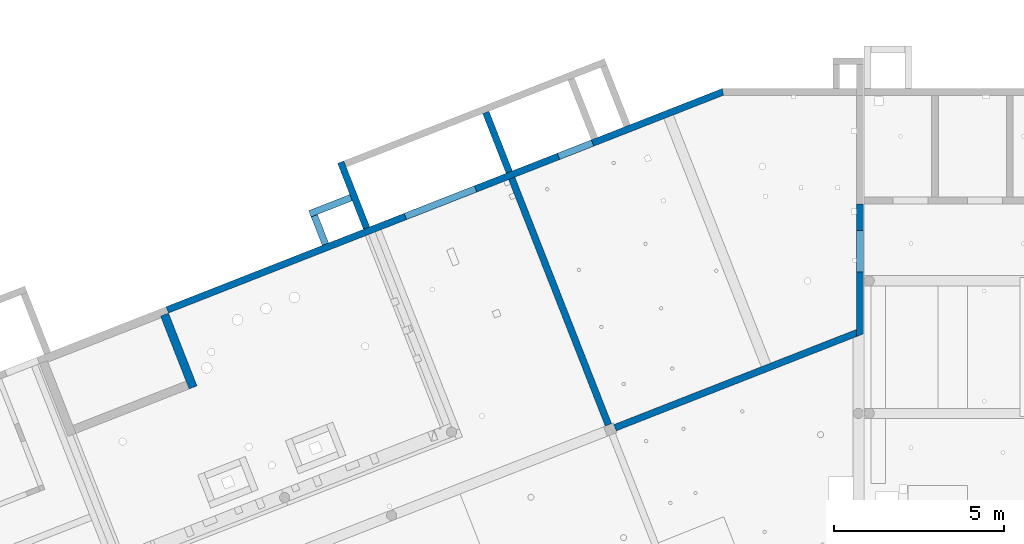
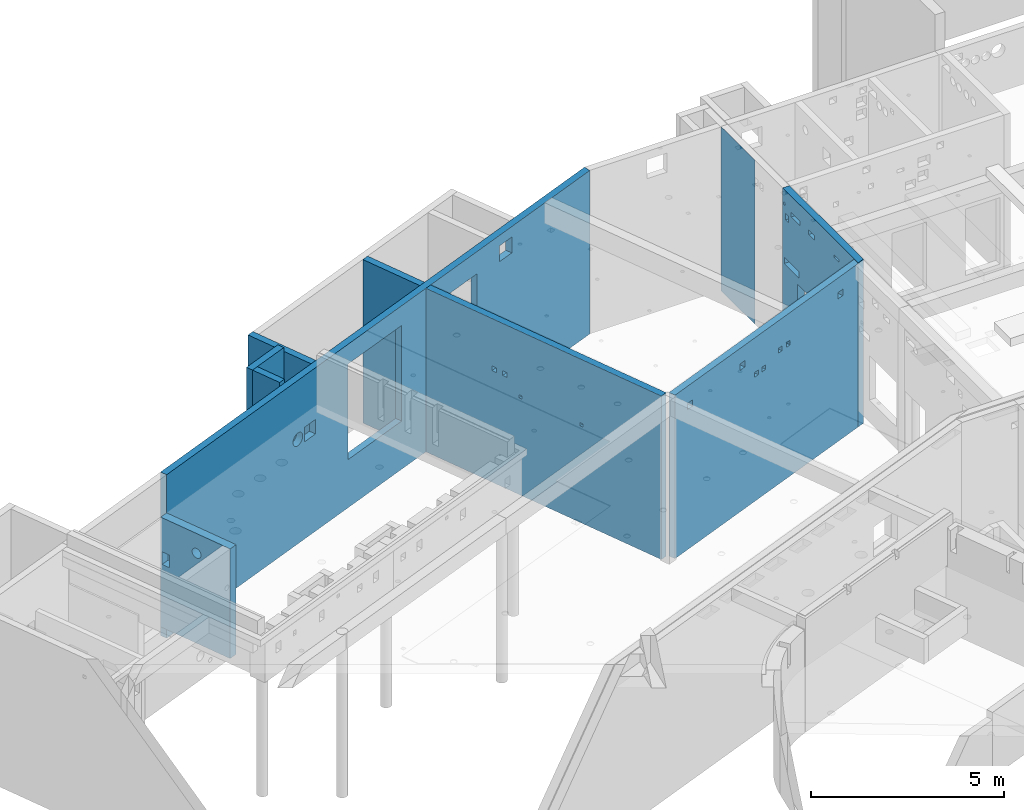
# One storey, part 23 of 28: 9 walls, 28 openings.
"""IFC2X3 building model written with IfcOpenShell, lengths in metres."""

from ifc_helpers import new_model, entity, si_unit, converted_unit, direction, frame, frame_2d, origin, origin_with_axes, place, context, subcontext, project, spatial, polyline, rectangle, outline, extrude, material, layer, layer_set, layer_usage, element, save


model = new_model("IFC2X3")

# Units and contexts
model_context = context("Model", 3, precision=1e-05, world=origin(), true_north=direction((-0.407059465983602, -0.913401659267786)))
body_context = subcontext(model_context, "Body", "Model", "MODEL_VIEW")
ifc_project = project(units=[si_unit("LENGTHUNIT", "METRE"), si_unit("AREAUNIT", "SQUARE_METRE"), si_unit("VOLUMEUNIT", "CUBIC_METRE"), si_unit("MASSUNIT", "GRAM", prefix="KILO"), converted_unit("PLANEANGLEUNIT", "DEGREE", entity("IfcPlaneAngleMeasure", 0.0174532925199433), si_unit("PLANEANGLEUNIT", "RADIAN"), dimensions=[0, 0, 0, 0, 0, 0, 0])], contexts=[model_context])

# Site, buildings, storey
site_placement = place(None, origin())
site = spatial("IfcSite", under=ifc_project, at=site_placement, Name="Site", CompositionType="ELEMENT")
building_1_placement = place(site_placement, origin())
building_1 = spatial("IfcBuilding", under=site, at=building_1_placement, Name="Site", CompositionType="COMPLEX")
building_2_placement = place(building_1_placement, origin())
building_2 = spatial("IfcBuilding", under=building_1, at=building_2_placement, Name="Bâtiments", CompositionType="ELEMENT")
storey_placement = place(building_2_placement, frame((0.0, 0.0, -5.3)))
storey = spatial("IfcBuildingStorey", under=building_2, at=storey_placement, Name="SOUS-SOL", CompositionType="ELEMENT", Elevation=-5.3)

# Wall, openings
ifc_material_1 = material(Name="Béton")
ifc_layer_1 = layer(ifc_material_1, 0.25)
ifc_layer_set_1 = layer_set([ifc_layer_1])
ifc_layer_usage_1 = layer_usage(ifc_layer_set_1, "AXIS2", "POSITIVE", 0.0)
wall_1_placement = place(storey_placement, frame((8.25628507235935, 0.660868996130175, 0.5), z_axis=(0.0, 0.0, 1.0), x_axis=(-0.365246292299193, 0.930910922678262, 0.0)))
wall_1 = element("IfcWallStandardCase", 1, at=wall_1_placement, inside=storey, material=ifc_layer_usage_1, context=body_context, shape_type="SweptSolid", body=[
    extrude(rectangle(XDim=2.30036734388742, YDim=0.25, at=frame_2d((1.15018367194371, 0.125), x_axis=(1.0, 0.0))), origin_with_axes(), (0.0, 0.0, 1.0), 3.46),
])
opening_1_placement = place(wall_1_placement, frame((0.959622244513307, 1.13686837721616e-16, 2.69), z_axis=(9.09494701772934e-16, 1.0, 0.0), x_axis=(0.0, 0.0, 1.0)))
element("IfcOpeningElement", 2, at=opening_1_placement, cuts=wall_1, Name="CVC-012", ObjectType="Opening", context=body_context, shape_type="SweptSolid", body=[
    extrude(outline(polyline([(0.14999998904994, 0.3), (0.165679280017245, 0.299178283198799), (0.181186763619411, 0.296722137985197), (0.196352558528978, 0.292658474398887), (0.211010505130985, 0.287031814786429), (0.225000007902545, 0.279903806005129), (0.238167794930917, 0.271352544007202), (0.25036959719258, 0.261471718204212), (0.261471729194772, 0.250369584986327), (0.271352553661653, 0.238167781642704), (0.279903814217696, 0.224999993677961), (0.287031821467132, 0.211010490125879), (0.292658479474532, 0.196352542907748), (0.296722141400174, 0.181186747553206), (0.299178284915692, 0.165679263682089), (0.3, 0.149999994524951), (0.299178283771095, 0.134320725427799), (0.29672213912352, 0.118813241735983), (0.292658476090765, 0.10364744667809), (0.287031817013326, 0.0889894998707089), (0.279903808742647, 0.0749999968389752), (0.271352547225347, 0.0618322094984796), (0.261471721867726, 0.049630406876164), (0.250369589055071, 0.038528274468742), (0.238167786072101, 0.0286474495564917), (0.224999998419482, 0.0200961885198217), (0.211010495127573, 0.0129681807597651), (0.196352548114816, 0.00734152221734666), (0.181186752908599, 0.00327785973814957), (0.165679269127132, 0.000821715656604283), (0.149999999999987, 0.0), (0.134320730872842, 0.000821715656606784), (0.118813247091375, 0.0032778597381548), (0.103647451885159, 0.00734152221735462), (0.0889895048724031, 0.0129681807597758), (0.0750000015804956, 0.0200961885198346), (0.0618322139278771, 0.0286474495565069), (0.0496304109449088, 0.0385282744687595), (0.0385282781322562, 0.0496304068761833), (0.0286474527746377, 0.0618322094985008), (0.0200961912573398, 0.0749999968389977), (0.0129681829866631, 0.0889894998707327), (0.00734152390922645, 0.103647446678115), (0.00327786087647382, 0.118813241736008), (0.000821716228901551, 0.134320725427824), (0.0, 0.149999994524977), (0.000821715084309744, 0.165679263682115), (0.00327785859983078, 0.181186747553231), (0.00734152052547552, 0.196352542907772), (0.0129681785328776, 0.211010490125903), (0.0200961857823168, 0.224999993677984), (0.0286474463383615, 0.238167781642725), (0.0385282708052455, 0.250369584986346), (0.0496304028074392, 0.26147171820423), (0.061832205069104, 0.271352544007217), (0.0749999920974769, 0.279903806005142), (0.088989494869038, 0.287031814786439), (0.103647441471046, 0.292658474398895), (0.118813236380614, 0.296722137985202), (0.134320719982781, 0.299178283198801), (0.14999998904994, 0.3)])), origin_with_axes(), (0.0, 0.0, 1.0), 0.249999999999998),
])
opening_2_placement = place(wall_1_placement, frame((2.00131382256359, -9.09494701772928e-16, 1.99), z_axis=(0.0, 1.0, 0.0), x_axis=(0.0, 0.0, 1.0)))
element("IfcOpeningElement", 3, at=opening_2_placement, cuts=wall_1, Name="TE-030", ObjectType="Opening", context=body_context, shape_type="SweptSolid", body=[
    extrude(outline(polyline([(0.0, 0.249053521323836), (0.4, 0.249053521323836), (0.4, 0.0), (0.0, 0.0), (0.0, 0.249053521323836)])), origin_with_axes(), (0.0, 0.0, 1.0), 0.249999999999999),
])

ifc_material_2 = material(Name="Béton")
ifc_layer_2 = layer(ifc_material_2, 0.199999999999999)
ifc_layer_set_2 = layer_set([ifc_layer_2])
ifc_layer_usage_2 = layer_usage(ifc_layer_set_2, "AXIS2", "POSITIVE", 0.0)
wall_2_placement = place(storey_placement, frame((23.710664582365, 9.41038730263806, 0.0), z_axis=(0.0, 0.0, 1.0), x_axis=(-0.930910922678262, -0.365246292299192, 0.0)))
wall_2 = element("IfcWallStandardCase", 4, at=wall_2_placement, inside=storey, material=ifc_layer_usage_2, context=body_context, shape_type="SweptSolid", body=[
    extrude(outline(polyline([(-17.6503821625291, -0.173319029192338), (-0.0680023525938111, -0.173319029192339), (-0.0680023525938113, 0.0266809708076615), (-17.6125506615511, 0.0266809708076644), (-17.6503821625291, -0.173319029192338)])), frame((17.6503821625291, 0.173319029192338, 0.0), z_axis=(0.0, 0.0, 1.0), x_axis=(1.0, 0.0, 0.0)), (0.0, 0.0, 1.0), 5.16),
])
opening_3_placement = place(wall_2_placement, frame((3.77217599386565, 0.200000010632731, 4.33), z_axis=(2.2737367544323e-15, -1.0, 0.0), x_axis=(0.0, 0.0, 1.0)))
element("IfcOpeningElement", 5, at=opening_3_placement, cuts=wall_2, Name="CVC-008", ObjectType="Opening", context=body_context, shape_type="SweptSolid", body=[
    extrude(outline(polyline([(0.0, 0.499999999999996), (0.5, 0.499999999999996), (0.5, 0.0), (0.0, 0.0), (0.0, 0.499999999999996)])), origin_with_axes(), (0.0, 0.0, 1.0), 0.200000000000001),
])
opening_4_placement = place(wall_2_placement, frame((3.93833305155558, 0.200000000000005, 0.2), z_axis=(-4.54747350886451e-15, -1.0, 0.0), x_axis=(0.0, 0.0, 1.0)))
element("IfcOpeningElement", 6, at=opening_4_placement, cuts=wall_2, Name="CVC-009", ObjectType="Opening", context=body_context, shape_type="SweptSolid", body=[
    extrude(outline(polyline([(0.0, 0.829999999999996), (0.83, 0.829999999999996), (0.83, 0.0), (0.0, 0.0), (0.0, 0.829999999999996)])), origin_with_axes(), (0.0, 0.0, 1.0), 0.200000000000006),
])
opening_5_placement = place(wall_2_placement, frame((11.9421998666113, 6.34848493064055e-09, 3.1), z_axis=(0.0, 1.0, 0.0), x_axis=(0.0, 0.0, 1.0)))
element("IfcOpeningElement", 7, at=opening_5_placement, cuts=wall_2, Name="CVC-003", ObjectType="Opening", context=body_context, shape_type="SweptSolid", body=[
    extrude(outline(polyline([(0.199999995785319, 0.400000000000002), (0.220905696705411, 0.398904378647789), (0.241582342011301, 0.395629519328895), (0.261803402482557, 0.390211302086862), (0.281347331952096, 0.382709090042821), (0.30000000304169, 0.373205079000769), (0.3175570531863, 0.361803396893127), (0.333826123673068, 0.348628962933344), (0.34862896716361, 0.333826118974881), (0.361803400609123, 0.317557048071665), (0.373205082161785, 0.299999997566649), (0.382709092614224, 0.28134732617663), (0.390211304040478, 0.261803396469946), (0.395629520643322, 0.241582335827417), (0.398904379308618, 0.220905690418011), (0.4, 0.199999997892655), (0.398904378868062, 0.179094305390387), (0.395629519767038, 0.158417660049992), (0.390211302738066, 0.138196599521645), (0.382709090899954, 0.11865266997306), (0.373205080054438, 0.0999999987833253), (0.361803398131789, 0.0824429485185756), (0.34862896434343, 0.0661738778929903), (0.333826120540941, 0.0513710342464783), (0.317557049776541, 0.0381966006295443), (0.299999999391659, 0.0267949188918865), (0.281347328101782, 0.0172909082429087), (0.261803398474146, 0.00978869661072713), (0.241582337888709, 0.0043704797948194), (0.220905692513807, 0.00109562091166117), (0.199999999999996, 0.0), (0.179094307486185, 0.00109562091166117), (0.158417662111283, 0.00437047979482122), (0.138196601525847, 0.00978869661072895), (0.11865267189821, 0.0172909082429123), (0.100000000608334, 0.0267949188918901), (0.0824429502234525, 0.0381966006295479), (0.0661738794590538, 0.0513710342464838), (0.0513710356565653, 0.0661738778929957), (0.0381966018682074, 0.0824429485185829), (0.0267949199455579, 0.0999999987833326), (0.0172909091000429, 0.118652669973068), (0.00978869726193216, 0.138196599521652), (0.00437048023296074, 0.15841766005), (0.00109562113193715, 0.179094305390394), (0.0, 0.199999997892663), (0.00109562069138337, 0.220905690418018), (0.00437047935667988, 0.241582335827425), (0.00978869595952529, 0.261803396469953), (0.0172909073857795, 0.281347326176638), (0.0267949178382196, 0.299999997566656), (0.0381965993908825, 0.317557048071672), (0.0513710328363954, 0.333826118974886), (0.0661738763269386, 0.34862896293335), (0.0824429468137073, 0.36180339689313), (0.0999999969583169, 0.373205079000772), (0.118652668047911, 0.382709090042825), (0.138196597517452, 0.390211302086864), (0.158417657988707, 0.395629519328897), (0.179094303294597, 0.398904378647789), (0.199999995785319, 0.400000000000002)])), origin_with_axes(), (0.0, 0.0, 1.0), 0.200000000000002),
])
opening_6_placement = place(wall_2_placement, frame((11.869698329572, 0.200000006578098, 3.07), z_axis=(0.0, -1.0, 0.0), x_axis=(0.0, 0.0, 1.0)))
element("IfcOpeningElement", 8, at=opening_6_placement, cuts=wall_2, Name="CVC-004", ObjectType="Opening", context=body_context, shape_type="SweptSolid", body=[
    extrude(outline(polyline([(0.0, 0.46), (0.46, 0.46), (0.46, 0.0), (0.0, 0.0), (0.0, 0.46)])), origin_with_axes(), (0.0, 0.0, 1.0), 0.200000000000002),
])
opening_7_placement = place(wall_2_placement, frame((10.0555867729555, 0.200000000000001, 1.52), z_axis=(9.09494701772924e-15, -1.0, 0.0), x_axis=(0.0, 0.0, 1.0)))
element("IfcOpeningElement", 9, at=opening_7_placement, cuts=wall_2, Name="CVC-005", ObjectType="Opening", context=body_context, shape_type="SweptSolid", body=[
    extrude(outline(polyline([(0.0, 2.22), (3.02, 2.22), (3.02, 0.0), (0.0, 0.0), (0.0, 2.22)])), origin_with_axes(), (0.0, 0.0, 1.0), 0.200000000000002),
])
opening_8_placement = place(wall_2_placement, frame((6.5578508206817, 0.200000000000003, 3.71), z_axis=(4.5474735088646e-15, -1.0, 0.0), x_axis=(0.0, 0.0, 1.0)))
element("IfcOpeningElement", 10, at=opening_8_placement, cuts=wall_2, Name="CVC-006", ObjectType="Opening", context=body_context, shape_type="SweptSolid", body=[
    extrude(outline(polyline([(0.0, 0.599999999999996), (0.6, 0.599999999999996), (0.6, 0.0), (0.0, 0.0), (0.0, 0.599999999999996)])), origin_with_axes(), (0.0, 0.0, 1.0), 0.200000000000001),
])
opening_9_placement = place(wall_2_placement, frame((5.21829127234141, 0.200000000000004, 0.5), z_axis=(0.0, -1.0, 0.0), x_axis=(0.0, 0.0, 1.0)))
element("IfcOpeningElement", 11, at=opening_9_placement, cuts=wall_2, Name="Baie de porte", ObjectType="Opening", context=body_context, shape_type="SweptSolid", body=[
    extrude(outline(polyline([(0.0, 1.08), (2.2, 1.08), (2.2, 0.0), (0.0, 0.0), (0.0, 1.08)])), origin_with_axes(), (0.0, 0.0, 1.0), 0.200000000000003),
])
opening_10_placement = place(wall_2_placement, frame((5.80639756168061, 0.200000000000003, 3.36), z_axis=(0.0, -1.0, 0.0), x_axis=(0.0, 0.0, 1.0)))
element("IfcOpeningElement", 12, at=opening_10_placement, cuts=wall_2, Name="CVC-007", ObjectType="Opening", context=body_context, shape_type="SweptSolid", body=[
    extrude(outline(polyline([(0.0, 1.1), (1.1, 1.1), (1.1, 0.0), (0.0, 0.0), (0.0, 1.1)])), origin_with_axes(), (0.0, 0.0, 1.0), 0.200000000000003),
])

# Walls
ifc_material_3 = material(Name="Béton")
ifc_layer_3 = layer(ifc_material_3, 0.200000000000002)
ifc_layer_set_3 = layer_set([ifc_layer_3])
ifc_layer_usage_3 = layer_usage(ifc_layer_set_3, "AXIS2", "POSITIVE", 0.0)
wall_3_placement = place(storey_placement, frame((12.1277779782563, 4.86594065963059, 2.56), z_axis=(0.0, 0.0, 1.0), x_axis=(-0.365246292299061, 0.930910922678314, 0.0)))
element("IfcWallStandardCase", 13, at=wall_3_placement, inside=storey, material=ifc_layer_usage_3, context=body_context, shape_type="SweptSolid", body=[
    extrude(rectangle(XDim=0.9, YDim=0.200000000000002, at=frame_2d((0.45, 0.100000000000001), x_axis=(1.0, 0.0))), origin_with_axes(), (0.0, 0.0, 1.0), 2.72),
])
ifc_material_4 = material(Name="Béton")
ifc_layer_4 = layer(ifc_material_4, 0.200000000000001)
ifc_layer_set_4 = layer_set([ifc_layer_4])
ifc_layer_usage_4 = layer_usage(ifc_layer_set_4, "AXIS2", "POSITIVE", 0.0)
wall_4_placement = place(storey_placement, frame((11.6128741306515, 5.63071123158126, 2.56), z_axis=(0.0, 0.0, 1.0), x_axis=(0.930910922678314, 0.36524629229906, 0.0)))
element("IfcWallStandardCase", 14, at=wall_4_placement, inside=storey, material=ifc_layer_usage_4, context=body_context, shape_type="SweptSolid", body=[
    extrude(rectangle(XDim=1.3, YDim=0.200000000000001, at=frame_2d((0.650000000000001, 0.1), x_axis=(1.0, 0.0))), origin_with_axes(), (0.0, 0.0, 1.0), 2.72),
])
ifc_material_5 = material(Name="Béton")
ifc_layer_5 = layer(ifc_material_5, 0.199999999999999)
ifc_layer_set_5 = layer_set([ifc_layer_5])
ifc_layer_usage_5 = layer_usage(ifc_layer_set_5, "AXIS2", "POSITIVE", 0.0)
wall_5_placement = place(storey_placement, frame((12.3905462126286, 7.20788416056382, 0.0), z_axis=(0.0, 0.0, 1.0), x_axis=(0.365246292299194, -0.930910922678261, 0.0)))
element("IfcWallStandardCase", 15, at=wall_5_placement, inside=storey, material=ifc_layer_usage_5, context=body_context, shape_type="SweptSolid", body=[
    extrude(rectangle(XDim=2.08429703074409, YDim=0.199999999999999, at=frame_2d((1.04214851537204, 0.0999999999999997), x_axis=(1.0, 0.0))), origin_with_axes(), (0.0, 0.0, 1.0), 5.16),
])
ifc_material_6 = material(Name="Béton")
ifc_layer_6 = layer(ifc_material_6, 0.200000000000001)
ifc_layer_set_6 = layer_set([ifc_layer_6])
ifc_layer_usage_6 = layer_usage(ifc_layer_set_6, "AXIS2", "POSITIVE", 0.0)
wall_6_placement = place(storey_placement, frame((17.5348547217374, 6.98728580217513, 0.0), z_axis=(0.0, 0.0, 1.0), x_axis=(-0.365246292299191, 0.930910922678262, 0.0)))
element("IfcWallStandardCase", 16, at=wall_6_placement, inside=storey, material=ifc_layer_usage_6, context=body_context, shape_type="SweptSolid", body=[
    extrude(rectangle(XDim=1.88429703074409, YDim=0.200000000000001, at=frame_2d((0.942148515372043, 0.100000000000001), x_axis=(1.0, 0.0))), origin_with_axes(), (0.0, 0.0, 1.0), 5.16),
])

# Wall, openings
ifc_material_7 = material(Name="Béton")
ifc_layer_7 = layer(ifc_material_7, 0.200000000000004)
ifc_layer_set_7 = layer_set([ifc_layer_7])
ifc_layer_usage_7 = layer_usage(ifc_layer_set_7, "AXIS2", "POSITIVE", -0.100000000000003)
wall_7_placement = place(storey_placement, frame((20.4530233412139, -0.450247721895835, 0.0), z_axis=(0.0, 0.0, 1.0), x_axis=(-0.365246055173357, 0.930911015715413, 0.0)))
wall_7 = element("IfcWallStandardCase", 17, at=wall_7_placement, inside=storey, material=ifc_layer_usage_7, context=body_context, shape_type="SweptSolid", body=[
    extrude(outline(polyline([(-1.03915990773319, -2.84853087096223), (6.75037153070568, -2.84853087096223), (6.75037150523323, -2.64853087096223), (-1.03915995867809, -2.64853087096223), (-1.03915990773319, -2.84853087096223)])), frame((1.03915990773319, 2.84853087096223, 0.0), z_axis=(0.0, 0.0, 1.0), x_axis=(1.0, 0.0, 0.0)), (0.0, 0.0, 1.0), 5.16),
])
opening_11_placement = place(wall_7_placement, frame((5.45271024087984, 8.93062381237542e-08, 3.52), z_axis=(0.0, 1.0, 0.0), x_axis=(0.0, 0.0, 1.0)))
element("IfcOpeningElement", 18, at=opening_11_placement, cuts=wall_7, Name="CVC-013", ObjectType="Opening", context=body_context, shape_type="SweptSolid", body=[
    extrude(outline(polyline([(0.0, 0.149999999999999), (0.15, 0.149999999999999), (0.15, 0.0), (0.0, 0.0), (0.0, 0.149999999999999)])), origin_with_axes(), (0.0, 0.0, 1.0), 0.2),
])
opening_12_placement = place(wall_7_placement, frame((5.10211147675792, 9.09494701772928e-16, 3.52), z_axis=(-9.09494701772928e-15, 1.0, 0.0), x_axis=(0.0, 0.0, 1.0)))
element("IfcOpeningElement", 19, at=opening_12_placement, cuts=wall_7, Name="CVC-014", ObjectType="Opening", context=body_context, shape_type="SweptSolid", body=[
    extrude(outline(polyline([(0.0, 0.150000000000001), (0.15, 0.150000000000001), (0.15, 0.0), (0.0, 0.0), (0.0, 0.150000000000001)])), origin_with_axes(), (0.0, 0.0, 1.0), 0.2),
])
opening_13_placement = place(wall_7_placement, frame((4.60879499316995, -2.27373675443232e-15, 3.05), z_axis=(-2.27373675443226e-14, 1.0, 0.0), x_axis=(0.0, 0.0, 1.0)))
element("IfcOpeningElement", 20, at=opening_13_placement, cuts=wall_7, Name="PB-033", ObjectType="Opening", context=body_context, shape_type="SweptSolid", body=[
    extrude(outline(polyline([(0.0, 0.0999999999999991), (0.1, 0.0999999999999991), (0.1, 0.0), (0.0, 0.0), (0.0, 0.0999999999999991)])), origin_with_axes(), (0.0, 0.0, 1.0), 0.200000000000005),
])
opening_14_placement = place(wall_7_placement, frame((2.58709519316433, -5.14977294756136e-07, 3.05), z_axis=(-1.59161572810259e-14, 1.0, 0.0), x_axis=(0.0, 0.0, 1.0)))
element("IfcOpeningElement", 21, at=opening_14_placement, cuts=wall_7, Name="PB-040", ObjectType="Opening", context=body_context, shape_type="SweptSolid", body=[
    extrude(outline(polyline([(0.0, 0.100000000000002), (0.1, 0.100000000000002), (0.1, 0.0), (0.0, 0.0), (0.0, 0.100000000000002)])), origin_with_axes(), (0.0, 0.0, 1.0), 0.200000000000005),
])

ifc_material_8 = material(Name="Béton")
ifc_layer_8 = layer(ifc_material_8, 0.200000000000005)
ifc_layer_set_8 = layer_set([ifc_layer_8])
ifc_layer_usage_8 = layer_usage(ifc_layer_set_8, "AXIS2", "POSITIVE", -0.100000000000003)
wall_8_placement = place(storey_placement, frame((27.6626316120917, 2.32475751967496, 0.0), z_axis=(0.0, 0.0, 1.0), x_axis=(-0.930910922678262, -0.365246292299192, 0.0)))
wall_8 = element("IfcWallStandardCase", 22, at=wall_8_placement, inside=storey, material=ifc_layer_usage_8, context=body_context, shape_type="SweptSolid", body=[
    extrude(outline(polyline([(-7.7430886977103, -0.173319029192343), (-0.0680023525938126, -0.173319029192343), (-0.0680023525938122, 0.0266809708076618), (-7.66461743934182, 0.0266809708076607), (-7.7430886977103, -0.173319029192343)])), frame((7.7430886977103, 0.173319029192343, 0.0), z_axis=(0.0, 0.0, 1.0), x_axis=(1.0, 0.0, 0.0)), (0.0, 0.0, 1.0), 5.16),
])
opening_15_placement = place(wall_8_placement, frame((2.90994399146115, 0.0, 4.14), z_axis=(-2.27373675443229e-15, 1.0, 0.0), x_axis=(0.0, 0.0, 1.0)))
element("IfcOpeningElement", 23, at=opening_15_placement, cuts=wall_8, Name="CVC-015", ObjectType="Opening", context=body_context, shape_type="SweptSolid", body=[
    extrude(outline(polyline([(0.0, 0.15), (0.15, 0.15), (0.15, 0.0), (0.0, 0.0), (0.0, 0.15)])), origin_with_axes(), (0.0, 0.0, 1.0), 0.200000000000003),
])
opening_16_placement = place(wall_8_placement, frame((4.22165874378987, -2.27373675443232e-16, 3.92), z_axis=(0.0, 1.0, 0.0), x_axis=(0.0, 0.0, 1.0)))
element("IfcOpeningElement", 24, at=opening_16_placement, cuts=wall_8, Name="CVC-018", ObjectType="Opening", context=body_context, shape_type="SweptSolid", body=[
    extrude(outline(polyline([(0.0, 0.149999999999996), (0.15, 0.149999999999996), (0.15, 0.0), (0.0, 0.0), (0.0, 0.149999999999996)])), origin_with_axes(), (0.0, 0.0, 1.0), 0.200000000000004),
])
opening_17_placement = place(wall_8_placement, frame((3.9138566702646, -1.22099663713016e-13, 3.92), z_axis=(-2.2737367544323e-15, 1.0, 0.0), x_axis=(0.0, 0.0, 1.0)))
element("IfcOpeningElement", 25, at=opening_17_placement, cuts=wall_8, Name="CVC-017", ObjectType="Opening", context=body_context, shape_type="SweptSolid", body=[
    extrude(outline(polyline([(0.0, 0.15), (0.15, 0.15), (0.15, 0.0), (0.0, 0.0), (0.0, 0.15)])), origin_with_axes(), (0.0, 0.0, 1.0), 0.200000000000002),
])
opening_18_placement = place(wall_8_placement, frame((3.23811821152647, 4.54747350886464e-16, 4.14), z_axis=(-2.27373675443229e-15, 1.0, 0.0), x_axis=(0.0, 0.0, 1.0)))
element("IfcOpeningElement", 26, at=opening_18_placement, cuts=wall_8, Name="CVC-016", ObjectType="Opening", context=body_context, shape_type="SweptSolid", body=[
    extrude(outline(polyline([(0.0, 0.15), (0.15, 0.15), (0.15, 0.0), (0.0, 0.0), (0.0, 0.15)])), origin_with_axes(), (0.0, 0.0, 1.0), 0.200000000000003),
])
opening_19_placement = place(wall_8_placement, frame((4.78177524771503, -2.27373675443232e-16, 4.47), z_axis=(-4.54747350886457e-15, 1.0, 0.0), x_axis=(0.0, 0.0, 1.0)))
element("IfcOpeningElement", 27, at=opening_19_placement, cuts=wall_8, Name="PB-050", ObjectType="Opening", context=body_context, shape_type="SweptSolid", body=[
    extrude(outline(polyline([(0.0, 0.2), (0.2, 0.2), (0.2, 0.0), (0.0, 0.0), (0.0, 0.2)])), origin_with_axes(), (0.0, 0.0, 1.0), 0.200000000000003),
])
opening_20_placement = place(wall_8_placement, frame((6.9544605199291, -4.54747350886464e-16, 4.42), z_axis=(9.09494701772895e-15, 1.0, 0.0), x_axis=(0.0, 0.0, 1.0)))
element("IfcOpeningElement", 28, at=opening_20_placement, cuts=wall_8, Name="PB-052", ObjectType="Opening", context=body_context, shape_type="SweptSolid", body=[
    extrude(outline(polyline([(0.0, 0.200000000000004), (0.2, 0.200000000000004), (0.2, 0.0), (0.0, 0.0), (0.0, 0.200000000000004)])), origin_with_axes(), (0.0, 0.0, 1.0), 0.200000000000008),
])
opening_21_placement = place(wall_8_placement, frame((0.718538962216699, -9.09494701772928e-16, 4.5), z_axis=(0.0, 1.0, 0.0), x_axis=(0.0, 0.0, 1.0)))
element("IfcOpeningElement", 29, at=opening_21_placement, cuts=wall_8, Name="PB-043", ObjectType="Opening", context=body_context, shape_type="SweptSolid", body=[
    extrude(outline(polyline([(0.0, 0.2), (0.2, 0.2), (0.2, 0.0), (0.0, 0.0), (0.0, 0.2)])), origin_with_axes(), (0.0, 0.0, 1.0), 0.200000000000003),
])

ifc_material_9 = material(Name="Béton")
wall_9_placement = place(storey_placement, frame((27.8626312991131, 2.18838479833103, 0.0), z_axis=(0.0, 0.0, 1.0), x_axis=(2.29502703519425e-06, 0.999999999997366, 0.0)))
wall_9 = element("IfcWall", 30, at=wall_9_placement, inside=storey, material=ifc_material_9, context=body_context, shape_type="SweptSolid", body=[
    extrude(outline(polyline([(0.0784712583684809, -0.199999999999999), (3.906397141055, -0.199999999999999), (3.906397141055, 5.86194287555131e-16), (0.0, 0.0), (0.0784712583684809, -0.199999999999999)])), frame((-0.0784712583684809, 0.199999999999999, 0.0), z_axis=(0.0, 0.0, 1.0), x_axis=(1.0, 0.0, 0.0)), (0.0, 0.0, 1.0), 5.18),
    extrude(outline(polyline([(1.76753615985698, 9.22506053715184e-07), (0.0, 0.0), (1.76753615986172, -1.14301933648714e-06), (1.76753615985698, 9.22506053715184e-07)])), frame((5.25446588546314, 0.199999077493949, 0.0), z_axis=(0.0, 0.0, 1.0), x_axis=(1.0, 0.0, 0.0)), (0.0, 0.0, 1.0), 5.18),
])
opening_22_placement = place(wall_9_placement, frame((1.82089616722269, -1.05293898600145e-15, 0.5), z_axis=(-1.13686837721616e-15, 1.0, 0.0), x_axis=(0.0, 0.0, 1.0)))
element("IfcOpeningElement", 31, at=opening_22_placement, cuts=wall_9, Name="Baie de porte", ObjectType="Opening", context=body_context, shape_type="SweptSolid", body=[
    extrude(outline(polyline([(0.0, 1.23), (2.1, 1.23), (2.1, 0.0), (0.0, 0.0), (0.0, 1.23)])), origin_with_axes(), (0.0, 0.0, 1.0), 0.199999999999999),
])
opening_23_placement = place(wall_9_placement, frame((3.69531889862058, 2.46761465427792e-15, 4.68), z_axis=(9.09494701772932e-15, 1.0, 0.0), x_axis=(0.0, 0.0, 1.0)))
element("IfcOpeningElement", 32, at=opening_23_placement, cuts=wall_9, Name="CVC-063", ObjectType="Opening", context=body_context, shape_type="SweptSolid", body=[
    extrude(outline(polyline([(0.0499999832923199, 0.0), (0.0447735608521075, 0.00027390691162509), (0.0396044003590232, 0.00109262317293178), (0.0345491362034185, 0.00244717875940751), (0.0296631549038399, 0.00432273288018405), (0.024999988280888, 0.0066987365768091), (0.0206107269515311, 0.00954915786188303), (0.0165434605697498, 0.0128427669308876), (0.012842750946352, 0.0165434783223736), (0.00954914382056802, 0.0206107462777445), (0.00669872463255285, 0.0250000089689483), (0.0043227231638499, 0.0296631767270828), (0.00244717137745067, 0.0345491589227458), (0.00109261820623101, 0.0396044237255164), (0.000273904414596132, 0.0447735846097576), (0.0, 0.0500000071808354), (0.00027390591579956, 0.0552264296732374), (0.00109262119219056, 0.0603955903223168), (0.00244717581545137, 0.0654508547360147), (0.00432272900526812, 0.0703368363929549), (0.00669873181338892, 0.0750000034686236), (0.00954915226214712, 0.0793892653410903), (0.0128427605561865, 0.0834565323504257), (0.0165434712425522, 0.0871572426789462), (0.0206107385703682, 0.0904508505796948), (0.0250000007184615, 0.0933012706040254), (0.0296631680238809, 0.0956772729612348), (0.0345491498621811, 0.0975528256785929), (0.0396044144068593, 0.0989073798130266), (0.0447735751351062, 0.0997260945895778), (0.0499999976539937, 0.1), (0.0552264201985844, 0.0997260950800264), (0.0603955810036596, 0.0989073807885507), (0.0654508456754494, 0.0975528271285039), (0.0703368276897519, 0.0956772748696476), (0.074999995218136, 0.0933012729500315), (0.0793892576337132, 0.0904508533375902), (0.0834565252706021, 0.0871572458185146), (0.0871572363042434, 0.0834565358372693), (0.0904508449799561, 0.0793892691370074), (0.0933012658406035, 0.0750000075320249), (0.095677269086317, 0.0703368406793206), (0.0975528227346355, 0.0654508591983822), (0.0989073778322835, 0.0603955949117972), (0.0997260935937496, 0.0552264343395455), (0.0999999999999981, 0.0500000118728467), (0.0997260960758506, 0.0447735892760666), (0.0989073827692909, 0.0396044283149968), (0.0975528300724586, 0.0345491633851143), (0.0956772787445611, 0.0296631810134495), (0.0933012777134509, 0.0250000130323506), (0.0904508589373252, 0.0206107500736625), (0.0871572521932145, 0.016543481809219), (0.0834565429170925, 0.0128427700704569), (0.0793892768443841, 0.00954916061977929), (0.0750000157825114, 0.00669873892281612), (0.0703368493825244, 0.00432273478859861), (0.0654508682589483, 0.00244718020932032), (0.0603956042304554, 0.00109262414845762), (0.0552264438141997, 0.000273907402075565), (0.0499999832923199, 0.0)])), origin_with_axes(), (0.0, 0.0, 1.0), 0.199999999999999),
])
opening_24_placement = place(wall_9_placement, frame((3.677035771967, 0.200000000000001, 4.26), z_axis=(6.82121026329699e-15, -1.0, 0.0), x_axis=(0.0, 0.0, 1.0)))
element("IfcOpeningElement", 33, at=opening_24_placement, cuts=wall_9, Name="PB-026", ObjectType="Opening", context=body_context, shape_type="SweptSolid", body=[
    extrude(outline(polyline([(0.0, 0.15), (0.2, 0.15), (0.2, 0.0), (0.0, 0.0), (0.0, 0.15)])), origin_with_axes(), (0.0, 0.0, 1.0), 0.199999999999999),
])
opening_25_placement = place(wall_9_placement, frame((0.921538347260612, -9.60086385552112e-08, 4.6), z_axis=(-1.65869096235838e-12, 1.0, 0.0), x_axis=(0.0, 0.0, 1.0)))
element("IfcOpeningElement", 34, at=opening_25_placement, cuts=wall_9, Name="EL-007", ObjectType="Opening", context=body_context, shape_type="SweptSolid", body=[
    extrude(outline(polyline([(0.0, 0.25), (0.07, 0.25), (0.07, 0.0), (0.0, 0.0), (0.0, 0.25)])), origin_with_axes(), (0.0, 0.0, 1.0), 0.199999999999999),
])
opening_26_placement = place(wall_9_placement, frame((2.99531885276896, 8.30490710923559e-15, 2.84), z_axis=(0.0, 0.0, 1.0), x_axis=(1.0, -2.7823467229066e-15, 0.0)))
element("IfcOpeningElement", 35, at=opening_26_placement, cuts=wall_9, Name="CVC-064", ObjectType="Opening", context=body_context, shape_type="SweptSolid", body=[
    extrude(outline(polyline([(4.59005406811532e-07, -1.5840348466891e-15), (0.750000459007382, 2.16840434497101e-22), (0.750000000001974, 0.199999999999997), (-7.84988231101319e-16, 0.199999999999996), (4.59005406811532e-07, -1.5840348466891e-15)])), origin_with_axes(), (0.0, 0.0, 1.0), 0.2),
])
opening_27_placement = place(wall_9_placement, frame((2.48392213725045, 0.199999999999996, 4.52), z_axis=(4.54747350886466e-15, -1.0, 0.0), x_axis=(0.0, 0.0, 1.0)))
element("IfcOpeningElement", 36, at=opening_27_placement, cuts=wall_9, Name="PB-034", ObjectType="Opening", context=body_context, shape_type="SweptSolid", body=[
    extrude(outline(polyline([(0.0, 0.3), (0.15, 0.3), (0.15, 0.0), (0.0, 0.0), (0.0, 0.3)])), origin_with_axes(), (0.0, 0.0, 1.0), 0.199999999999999),
])
opening_28_placement = place(wall_9_placement, frame((3.39392213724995, 0.200001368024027, 4.52), z_axis=(4.54747350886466e-15, -1.0, 0.0), x_axis=(0.0, 0.0, 1.0)))
element("IfcOpeningElement", 37, at=opening_28_placement, cuts=wall_9, Name="PB-032", ObjectType="Opening", context=body_context, shape_type="SweptSolid", body=[
    extrude(outline(polyline([(0.0, 0.45), (0.15, 0.45), (0.15, 0.0), (0.0, 0.0), (0.0, 0.45)])), origin_with_axes(), (0.0, 0.0, 1.0), 0.199999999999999),
])

save(model, "model.ifc")
